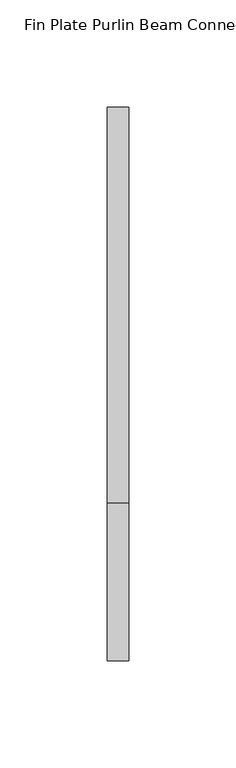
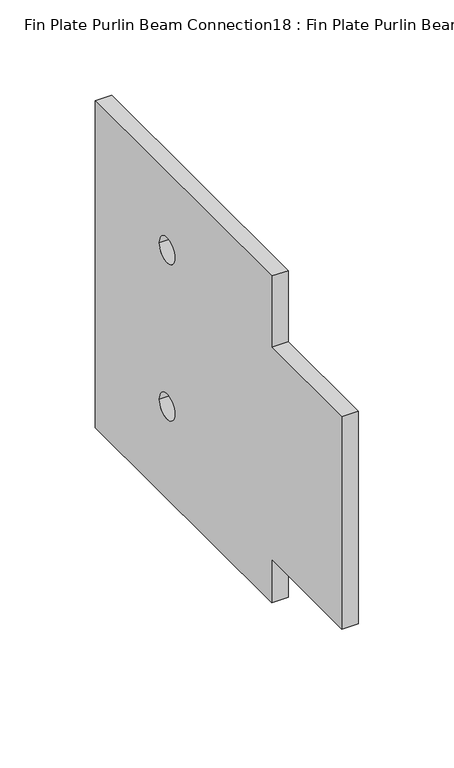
"""IFC4 building model written with IfcOpenShell, lengths in millimetres: proxy geometry, Fin Plate Purlin Beam Connection18 : Fin Plate Purlin Beam Connection."""

import ifcopenshell
import ifcopenshell.guid

model = None  # the IFC model being written
_history = None  # IfcOwnerHistory: only IFC2X3 demands one
_inside = {}  # id of a spatial element -> (the spatial element, [elements in it])
_under = {}  # id of a project, library or spatial element -> (it, [spatial elements below it])
_declared = {}  # id of a project -> (the project, [libraries it declares])
_typed = {}  # id of a type object -> (the type object, [elements of that type])
_made_of = {}  # id of a material, layer set ... -> (it, [elements and type objects made of it])


def new_model(schema):
    """Start an empty IFC model of exactly this schema.

    Asked for "IFC4X3", IfcOpenShell would pick the latest addendum, in which some entities
    have other attributes; the version numbers below select the first issue.
    IFC2X3 requires an IfcOwnerHistory on every rooted entity: one is made here for all.
    """
    global model, _history
    if schema == "IFC4X3":
        model = ifcopenshell.file(schema_version=(4, 3, 0, 0))
    else:
        model = ifcopenshell.file(schema=schema)
    _inside.clear()
    _under.clear()
    _declared.clear()
    _typed.clear()
    _made_of.clear()
    _history = None
    if model.schema == "IFC2X3":
        org = make("IfcOrganization", Name="unknown")
        user = make(
            "IfcPersonAndOrganization",
            ThePerson=make("IfcPerson", FamilyName="unknown"),
            TheOrganization=org,
        )
        app = make(
            "IfcApplication",
            ApplicationDeveloper=org,
            Version="unknown",
            ApplicationFullName="unknown",
            ApplicationIdentifier="unknown",
        )
        _history = make(
            "IfcOwnerHistory",
            OwningUser=user,
            OwningApplication=app,
            ChangeAction="ADDED",
            CreationDate=0,
        )
    return model


def make(cls, **values):
    """One entity of the class cls with the attributes given. An attribute that is None is left unset."""
    return model.create_entity(
        cls, **{name: value for name, value in values.items() if value is not None}
    )


def rooted(cls, **values):
    """An entity with a GlobalId (a new one), such as an element, a storey or a relation."""
    return make(cls, GlobalId=ifcopenshell.guid.new(), OwnerHistory=_history, **values)


def si_unit(unit_type, name, prefix=None):
    """IfcSIUnit, for example si_unit("LENGTHUNIT", "METRE", prefix="MILLI")."""
    return make("IfcSIUnit", UnitType=unit_type, Prefix=prefix, Name=name)


def assignment(units):
    """IfcUnitAssignment: the units of a project."""
    return None if units is None else make("IfcUnitAssignment", Units=units)


def point(xyz):
    """IfcCartesianPoint."""
    return None if xyz is None else make("IfcCartesianPoint", Coordinates=xyz)


def direction(xyz):
    """IfcDirection."""
    return None if xyz is None else make("IfcDirection", DirectionRatios=xyz)


def frame(location, z_axis=None, x_axis=None):
    """IfcAxis2Placement3D, a coordinate frame: its origin and axes. An axis left out is left unset."""
    return make(
        "IfcAxis2Placement3D",
        Location=point(location),
        Axis=direction(z_axis),
        RefDirection=direction(x_axis),
    )


def frame_2d(location, x_axis=None):
    """IfcAxis2Placement2D, a coordinate frame in the plane: its origin and x axis."""
    return make(
        "IfcAxis2Placement2D", Location=point(location), RefDirection=direction(x_axis)
    )


def origin():
    """The frame at (0, 0, 0) with its axes left unset."""
    return frame((0.0, 0.0, 0.0))


def place(relative_to, where):
    """IfcLocalPlacement: puts the frame where relative to a parent placement (None: the world)."""
    return make(
        "IfcLocalPlacement", PlacementRelTo=relative_to, RelativePlacement=where
    )


def context(
    kind, dimensions, precision=None, world=None, true_north=None, identifier=None
):
    """IfcGeometricRepresentationContext, for example the 3D "Model" context."""
    return make(
        "IfcGeometricRepresentationContext",
        ContextIdentifier=identifier,
        ContextType=kind,
        CoordinateSpaceDimension=dimensions,
        Precision=precision,
        WorldCoordinateSystem=world,
        TrueNorth=true_north,
    )


def project(units=None, contexts=None):
    """IfcProject with its units and contexts."""
    return rooted(
        "IfcProject",
        Name="project",
        RepresentationContexts=contexts,
        UnitsInContext=assignment(units),
    )


def spatial(cls, under=None, at=None, **own):
    """A site, building, storey or space (cls), placed at a placement, below another one or the project."""
    s = rooted(cls, ObjectPlacement=at, **own)
    if under is not None:
        _under.setdefault(under.id(), (under, []))[1].append(s)
    return s


def polyline(points):
    """IfcPolyline through the points."""
    return make("IfcPolyline", Points=[point(p) for p in points])


def circle_curve(where, radius):
    """IfcCircle in the frame where."""
    return make("IfcCircle", Position=where, Radius=radius)


def trimmed(basis, trim1, trim2, sense, master):
    """IfcTrimmedCurve: the piece of a basis curve between two trims."""
    return make(
        "IfcTrimmedCurve",
        BasisCurve=basis,
        Trim1=trim1,
        Trim2=trim2,
        SenseAgreement=sense,
        MasterRepresentation=master,
    )


def segment(curve, same_sense, transition):
    """IfcCompositeCurveSegment."""
    return make(
        "IfcCompositeCurveSegment",
        Transition=transition,
        SameSense=same_sense,
        ParentCurve=curve,
    )


def composite_curve(segments, self_intersect=None):
    """IfcCompositeCurve: segments joined end to end."""
    return make("IfcCompositeCurve", Segments=segments, SelfIntersect=self_intersect)


def outline(outer, holes=None, kind="AREA"):
    """IfcArbitraryClosedProfileDef: a profile drawn as a closed curve; with holes, ...WithVoids."""
    if holes is None:
        return make("IfcArbitraryClosedProfileDef", ProfileType=kind, OuterCurve=outer)
    return make(
        "IfcArbitraryProfileDefWithVoids",
        ProfileType=kind,
        OuterCurve=outer,
        InnerCurves=holes,
    )


def extrude(swept, where, along, depth):
    """IfcExtrudedAreaSolid: the profile swept, set in the frame where, extruded along a direction by depth."""
    return make(
        "IfcExtrudedAreaSolid",
        SweptArea=swept,
        Position=where,
        ExtrudedDirection=direction(along),
        Depth=depth,
    )


def shape(context_of_items, identifier, shape_type, items):
    """IfcShapeRepresentation: the items that make up one representation, for example the "Body"."""
    return make(
        "IfcShapeRepresentation",
        ContextOfItems=context_of_items,
        RepresentationIdentifier=identifier,
        RepresentationType=shape_type,
        Items=items,
    )


def source(mapping_origin, context_of_items, identifier, shape_type, items):
    """IfcRepresentationMap: a shape defined once, which mapped items show again and again."""
    return make(
        "IfcRepresentationMap",
        MappingOrigin=mapping_origin,
        MappedRepresentation=shape(context_of_items, identifier, shape_type, items),
    )


def transform(
    local_origin,
    x_axis=None,
    y_axis=None,
    z_axis=None,
    scale=None,
    scale2=None,
    scale3=None,
    uniform=True,
):
    """IfcCartesianTransformationOperator3D, or its non-uniform kind. x_axis, y_axis, z_axis: its Axis1, 2, 3."""
    if uniform:
        return make(
            "IfcCartesianTransformationOperator3D",
            Axis1=direction(x_axis),
            Axis2=direction(y_axis),
            LocalOrigin=point(local_origin),
            Scale=scale,
            Axis3=direction(z_axis),
        )
    return make(
        "IfcCartesianTransformationOperator3DnonUniform",
        Axis1=direction(x_axis),
        Axis2=direction(y_axis),
        LocalOrigin=point(local_origin),
        Scale=scale,
        Axis3=direction(z_axis),
        Scale2=scale2,
        Scale3=scale3,
    )


def mapped(mapping_source, mapping_target):
    """IfcMappedItem: shows the shape of a source again, moved by a transform."""
    return make(
        "IfcMappedItem", MappingSource=mapping_source, MappingTarget=mapping_target
    )


def made_of(thing, what):
    """Note that an element or type object is made of a material, layer set ...; save() writes the relation."""
    if what is not None:
        _made_of.setdefault(what.id(), (what, []))[1].append(thing)
    return thing


def element(
    cls,
    number,
    at=None,
    inside=None,
    cuts=None,
    type_object=None,
    material=None,
    context=None,
    identifier="Body",
    shape_type=None,
    held_by="IfcProductDefinitionShape",
    body=None,
    shapes=None,
    **own,
):
    """One element of the class cls, such as IfcWall. Its Tag is "e" and its number.

    at: its placement. inside: the storey or other place that contains it. cuts: it is an
    opening in that element (IfcRelVoidsElement). A single representation is given by context,
    identifier, shape_type and body (its items); several are given by shapes. held_by: the class
    of the entity that holds the representations. save() writes the other relations.
    """
    e = rooted(cls, Tag="e%d" % number, ObjectPlacement=at, **own)
    if body is not None:
        shapes = [shape(context, identifier, shape_type, body)]
    if shapes is not None:
        e.Representation = make(held_by, Representations=shapes)
    if inside is not None:
        _inside.setdefault(inside.id(), (inside, []))[1].append(e)
    if cuts is not None:
        rooted(
            "IfcRelVoidsElement", RelatingBuildingElement=cuts, RelatedOpeningElement=e
        )
    if type_object is not None:
        _typed.setdefault(type_object.id(), (type_object, []))[1].append(e)
    return made_of(e, material)


def aggregate(whole, parts):
    """IfcRelAggregates: a whole, such as a stair, and the parts it consists of."""
    return rooted("IfcRelAggregates", RelatingObject=whole, RelatedObjects=parts)


def save(model, path):
    """Write the relations noted so far, then the file.

    IfcRelAggregates (storeys below a building ...), IfcRelContainedInSpatialStructure (elements
    in a storey), IfcRelDefinesByType, IfcRelAssociatesMaterial and IfcRelDeclares: one each for
    every whole, place, type object, material and project.
    """
    for whole, parts in _under.values():
        aggregate(whole, parts)
    for where, things in _inside.values():
        rooted(
            "IfcRelContainedInSpatialStructure",
            RelatedElements=things,
            RelatingStructure=where,
        )
    for kind, things in _typed.values():
        rooted("IfcRelDefinesByType", RelatedObjects=things, RelatingType=kind)
    for what, things in _made_of.values():
        rooted("IfcRelAssociatesMaterial", RelatedObjects=things, RelatingMaterial=what)
    for by, libraries in _declared.values():
        rooted("IfcRelDeclares", RelatingContext=by, RelatedDefinitions=libraries)
    model.write(path)


def fin_plate_purlin_beam_connection18_fin_plate_purlin_beam_246c442c(model_context):
    return source(origin(), model_context, "Body", "SweptSolid", [
        extrude(outline(polyline([(11055.4549517, 2454.7182916), (11055.4549517, 2590.5), (11129.0549517, 2590.5), (11129.0549517, 2635.9566779), (11313.6549517, 2635.9566779), (11313.6549517, 2427.0006295), (11129.0549517, 2427.0006295), (11129.0549517, 2454.7182916), (11055.4549517, 2454.7182916)]), holes=[composite_curve([segment(trimmed(circle_curve(frame_2d((11238.6549517, 2585.9566779)), 8.0), [point((11230.6549517, 2585.9566779))], [point((11246.6549517, 2585.9566779))], True, "CARTESIAN"), True, "CONTINUOUS"), segment(trimmed(circle_curve(frame_2d((11238.6549517, 2585.9566779)), 8.0), [point((11246.6549517, 2585.9566779))], [point((11230.6549517, 2585.9566779))], True, "CARTESIAN"), True, "CONTINUOUS")], self_intersect=False), composite_curve([segment(trimmed(circle_curve(frame_2d((11238.6549517, 2485.9566779)), 8.0), [point((11230.6549517, 2485.9566779))], [point((11246.6549517, 2485.9566779))], True, "CARTESIAN"), True, "CONTINUOUS"), segment(trimmed(circle_curve(frame_2d((11238.6549517, 2485.9566779)), 8.0), [point((11246.6549517, 2485.9566779))], [point((11230.6549517, 2485.9566779))], True, "CARTESIAN"), True, "CONTINUOUS")], self_intersect=False)]), frame((-29526.0036256, 0.0, 0.0), z_axis=(1.0, 0.0, 0.0), x_axis=(0.0, 1.0, 0.0)), (0.0, 0.0, 1.0), 10.0),
    ])


if __name__ == "__main__":
    model = new_model("IFC4")
    model_context = context("Model", 3, world=origin())
    ifc_project = project(units=[si_unit("LENGTHUNIT", "METRE", prefix="MILLI")], contexts=[model_context])
    site = spatial("IfcSite", under=ifc_project)
    building = spatial("IfcBuilding", under=site)
    placement = place(None, origin())
    fin_plate_purlin_beam_connection18_fin_plate_purlin_beam_shape = fin_plate_purlin_beam_connection18_fin_plate_purlin_beam_246c442c(model_context)
    element("IfcBuildingElementProxy", 1, Name="Fin Plate Purlin Beam Connection18 : Fin Plate Purlin Beam Connection", ObjectType="Fin Plate Purlin Beam Connection18 : Fin Plate Purlin Beam Connection", at=placement, inside=building, context=model_context, shape_type="MappedRepresentation", body=[
        mapped(fin_plate_purlin_beam_connection18_fin_plate_purlin_beam_shape, transform((0.0, 0.0, 0.0), x_axis=(1.0, 0.0, 0.0), y_axis=(0.0, 1.0, 0.0), z_axis=(0.0, 0.0, 1.0))),
    ])
    save(model, "model.ifc")
